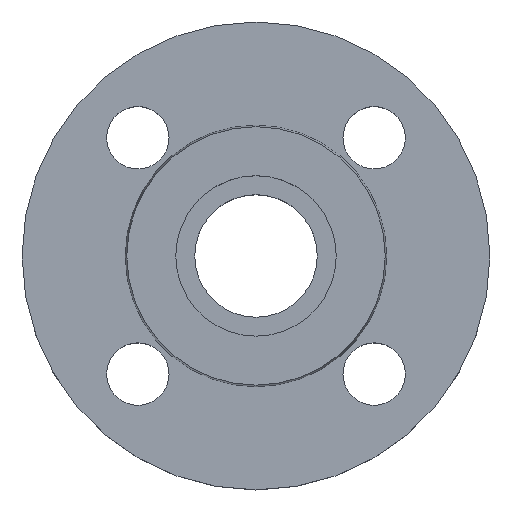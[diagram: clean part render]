
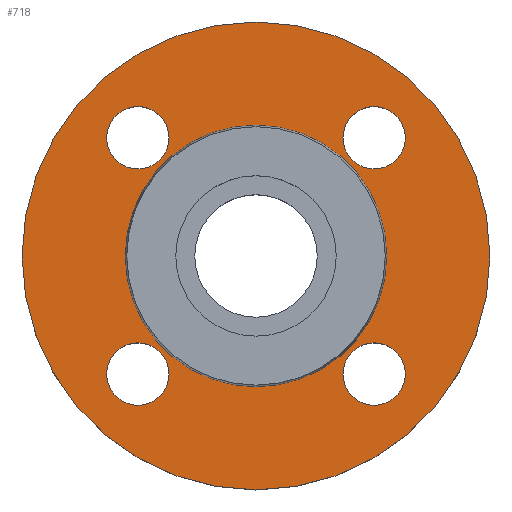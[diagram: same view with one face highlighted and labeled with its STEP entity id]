
A CAD part, top view. The second image highlights one B-rep face of the part: STEP entity #718.
In plain terms, the highlighted planar face has unit normal (0, 0, 1).
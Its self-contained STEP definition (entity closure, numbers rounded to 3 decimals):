
#13 = CARTESIAN_POINT ( 'NONE',  ( 0., 0., -2. ) ) ;
#15 = DIRECTION ( 'NONE',  ( 0., 0., -1. ) ) ;
#16 = AXIS2_PLACEMENT_3D ( 'NONE', #711, #713, #714 ) ;
#19 = CIRCLE ( 'NONE', #341, 52.5 ) ;
#20 = AXIS2_PLACEMENT_3D ( 'NONE', #13, #15, #215 ) ;
#23 = AXIS2_PLACEMENT_3D ( 'NONE', #44, #45, #46 ) ;
#24 = CIRCLE ( 'NONE', #16, 7. ) ;
#25 = EDGE_CURVE ( 'NONE', #602, #619, #320, .T. ) ;
#35 = CARTESIAN_POINT ( 'NONE',  ( 0., 0., -2. ) ) ;
#36 = DIRECTION ( 'NONE',  ( 0., 0., -1. ) ) ;
#37 = DIRECTION ( 'NONE',  ( -1., 0., 0. ) ) ;
#44 = CARTESIAN_POINT ( 'NONE',  ( -26.517, -26.517, -2. ) ) ;
#45 = DIRECTION ( 'NONE',  ( 0., 0., -1. ) ) ;
#46 = DIRECTION ( 'NONE',  ( 1., 0., 0. ) ) ;
#51 = CARTESIAN_POINT ( 'NONE',  ( 33.517, 26.517, -2. ) ) ;
#63 = CIRCLE ( 'NONE', #486, 7. ) ;
#67 = CARTESIAN_POINT ( 'NONE',  ( -29.353, 0., -2. ) ) ;
#70 = DIRECTION ( 'NONE',  ( 1., 0., 0. ) ) ;
#76 = DIRECTION ( 'NONE',  ( 0., 0., -1. ) ) ;
#78 = DIRECTION ( 'NONE',  ( -1., 0., 0. ) ) ;
#89 = CARTESIAN_POINT ( 'NONE',  ( -26.517, 26.517, -2. ) ) ;
#107 = CARTESIAN_POINT ( 'NONE',  ( 26.517, 26.517, -2. ) ) ;
#113 = DIRECTION ( 'NONE',  ( 0., 0., -1. ) ) ;
#119 = DIRECTION ( 'NONE',  ( 1., 0., 0. ) ) ;
#126 = CIRCLE ( 'NONE', #771, 52.5 ) ;
#134 = CIRCLE ( 'NONE', #275, 7. ) ;
#136 = DIRECTION ( 'NONE',  ( -1., 0., 0. ) ) ;
#155 = CARTESIAN_POINT ( 'NONE',  ( 26.517, 26.517, -2. ) ) ;
#156 = DIRECTION ( 'NONE',  ( 0., 0., -1. ) ) ;
#157 = CIRCLE ( 'NONE', #606, 29.353 ) ;
#159 = DIRECTION ( 'NONE',  ( 1., 0., 0. ) ) ;
#160 = CARTESIAN_POINT ( 'NONE',  ( 52.5, 0., -2. ) ) ;
#164 = CARTESIAN_POINT ( 'NONE',  ( -26.517, -26.517, -2. ) ) ;
#165 = DIRECTION ( 'NONE',  ( 0., 0., -1. ) ) ;
#166 = DIRECTION ( 'NONE',  ( 1., 0., 0. ) ) ;
#167 = CARTESIAN_POINT ( 'NONE',  ( 26.517, -26.517, -2. ) ) ;
#168 = DIRECTION ( 'NONE',  ( 0., 0., -1. ) ) ;
#169 = DIRECTION ( 'NONE',  ( 1., 0., 0. ) ) ;
#170 = CARTESIAN_POINT ( 'NONE',  ( 29.353, 0., -2. ) ) ;
#180 = CARTESIAN_POINT ( 'NONE',  ( 19.517, 26.517, -2. ) ) ;
#200 = CARTESIAN_POINT ( 'NONE',  ( -19.517, -26.517, -2. ) ) ;
#215 = DIRECTION ( 'NONE',  ( -1., 0., 0. ) ) ;
#218 = CIRCLE ( 'NONE', #23, 7. ) ;
#219 = EDGE_CURVE ( 'NONE', #583, #589, #24, .T. ) ;
#220 = CIRCLE ( 'NONE', #248, 7. ) ;
#225 = CARTESIAN_POINT ( 'NONE',  ( 0., 0., -2. ) ) ;
#245 = DIRECTION ( 'NONE',  ( 1., 0., 0. ) ) ;
#248 = AXIS2_PLACEMENT_3D ( 'NONE', #164, #165, #166 ) ;
#249 = DIRECTION ( 'NONE',  ( 0., 0., 1. ) ) ;
#251 = CARTESIAN_POINT ( 'NONE',  ( 29.353, 0., -2. ) ) ;
#253 = PLANE ( 'NONE',  #553 ) ;
#254 = FACE_OUTER_BOUND ( 'NONE', #404, .T. ) ;
#257 = FACE_BOUND ( 'NONE', #293, .T. ) ;
#258 = FACE_BOUND ( 'NONE', #585, .T. ) ;
#259 = FACE_BOUND ( 'NONE', #321, .T. ) ;
#260 = AXIS2_PLACEMENT_3D ( 'NONE', #155, #156, #159 ) ;
#261 = FACE_BOUND ( 'NONE', #614, .T. ) ;
#262 = FACE_BOUND ( 'NONE', #609, .T. ) ;
#265 = EDGE_CURVE ( 'NONE', #581, #344, #126, .T. ) ;
#275 = AXIS2_PLACEMENT_3D ( 'NONE', #167, #168, #169 ) ;
#278 = EDGE_CURVE ( 'NONE', #390, #575, #218, .T. ) ;
#293 = EDGE_LOOP ( 'NONE', ( #423, #428 ) ) ;
#312 = EDGE_CURVE ( 'NONE', #576, #384, #452, .T. ) ;
#320 = CIRCLE ( 'NONE', #767, 7. ) ;
#321 = EDGE_LOOP ( 'NONE', ( #416, #417 ) ) ;
#336 = EDGE_CURVE ( 'NONE', #384, #576, #515, .T. ) ;
#341 = AXIS2_PLACEMENT_3D ( 'NONE', #385, #470, #78 ) ;
#344 = VERTEX_POINT ( 'NONE', #160 ) ;
#355 = EDGE_CURVE ( 'NONE', #575, #390, #220, .T. ) ;
#359 = EDGE_CURVE ( 'NONE', #619, #602, #134, .T. ) ;
#365 = CARTESIAN_POINT ( 'NONE',  ( 33.517, -26.517, -2. ) ) ;
#367 = VERTEX_POINT ( 'NONE', #170 ) ;
#384 = VERTEX_POINT ( 'NONE', #180 ) ;
#385 = CARTESIAN_POINT ( 'NONE',  ( 0., 0., -2. ) ) ;
#390 = VERTEX_POINT ( 'NONE', #200 ) ;
#397 = CARTESIAN_POINT ( 'NONE',  ( -52.5, 0., -2. ) ) ;
#401 = ORIENTED_EDGE ( 'NONE', *, *, #25, .T. ) ;
#404 = EDGE_LOOP ( 'NONE', ( #429, #430 ) ) ;
#407 = ORIENTED_EDGE ( 'NONE', *, *, #359, .T. ) ;
#408 = ORIENTED_EDGE ( 'NONE', *, *, #278, .T. ) ;
#411 = ORIENTED_EDGE ( 'NONE', *, *, #355, .T. ) ;
#414 = EDGE_CURVE ( 'NONE', #617, #367, #788, .T. ) ;
#416 = ORIENTED_EDGE ( 'NONE', *, *, #219, .T. ) ;
#417 = ORIENTED_EDGE ( 'NONE', *, *, #799, .T. ) ;
#418 = ORIENTED_EDGE ( 'NONE', *, *, #312, .T. ) ;
#419 = ORIENTED_EDGE ( 'NONE', *, *, #336, .T. ) ;
#423 = ORIENTED_EDGE ( 'NONE', *, *, #414, .T. ) ;
#428 = ORIENTED_EDGE ( 'NONE', *, *, #743, .T. ) ;
#429 = ORIENTED_EDGE ( 'NONE', *, *, #511, .F. ) ;
#430 = ORIENTED_EDGE ( 'NONE', *, *, #265, .F. ) ;
#452 = CIRCLE ( 'NONE', #723, 7. ) ;
#455 = CARTESIAN_POINT ( 'NONE',  ( 19.517, -26.517, -2. ) ) ;
#467 = CARTESIAN_POINT ( 'NONE',  ( -19.517, 26.517, -2. ) ) ;
#470 = DIRECTION ( 'NONE',  ( 0., 0., -1. ) ) ;
#474 = CARTESIAN_POINT ( 'NONE',  ( -33.517, -26.517, -2. ) ) ;
#486 = AXIS2_PLACEMENT_3D ( 'NONE', #89, #76, #70 ) ;
#511 = EDGE_CURVE ( 'NONE', #344, #581, #19, .T. ) ;
#515 = CIRCLE ( 'NONE', #260, 7. ) ;
#539 = CARTESIAN_POINT ( 'NONE',  ( -33.517, 26.517, -2. ) ) ;
#553 = AXIS2_PLACEMENT_3D ( 'NONE', #251, #249, #245 ) ;
#575 = VERTEX_POINT ( 'NONE', #474 ) ;
#576 = VERTEX_POINT ( 'NONE', #51 ) ;
#581 = VERTEX_POINT ( 'NONE', #397 ) ;
#583 = VERTEX_POINT ( 'NONE', #467 ) ;
#585 = EDGE_LOOP ( 'NONE', ( #418, #419 ) ) ;
#589 = VERTEX_POINT ( 'NONE', #539 ) ;
#602 = VERTEX_POINT ( 'NONE', #365 ) ;
#606 = AXIS2_PLACEMENT_3D ( 'NONE', #225, #768, #136 ) ;
#609 = EDGE_LOOP ( 'NONE', ( #401, #407 ) ) ;
#614 = EDGE_LOOP ( 'NONE', ( #408, #411 ) ) ;
#617 = VERTEX_POINT ( 'NONE', #67 ) ;
#619 = VERTEX_POINT ( 'NONE', #455 ) ;
#630 = CARTESIAN_POINT ( 'NONE',  ( 26.517, -26.517, -2. ) ) ;
#631 = DIRECTION ( 'NONE',  ( 0., 0., -1. ) ) ;
#633 = DIRECTION ( 'NONE',  ( 1., 0., 0. ) ) ;
#711 = CARTESIAN_POINT ( 'NONE',  ( -26.517, 26.517, -2. ) ) ;
#713 = DIRECTION ( 'NONE',  ( 0., 0., -1. ) ) ;
#714 = DIRECTION ( 'NONE',  ( 1., 0., 0. ) ) ;
#718 = ADVANCED_FACE ( 'NONE', ( #262, #261, #259, #258, #257, #254 ), #253, .T. ) ;
#723 = AXIS2_PLACEMENT_3D ( 'NONE', #107, #113, #119 ) ;
#743 = EDGE_CURVE ( 'NONE', #367, #617, #157, .T. ) ;
#767 = AXIS2_PLACEMENT_3D ( 'NONE', #630, #631, #633 ) ;
#768 = DIRECTION ( 'NONE',  ( 0., 0., -1. ) ) ;
#771 = AXIS2_PLACEMENT_3D ( 'NONE', #35, #36, #37 ) ;
#788 = CIRCLE ( 'NONE', #20, 29.353 ) ;
#799 = EDGE_CURVE ( 'NONE', #589, #583, #63, .T. ) ;
